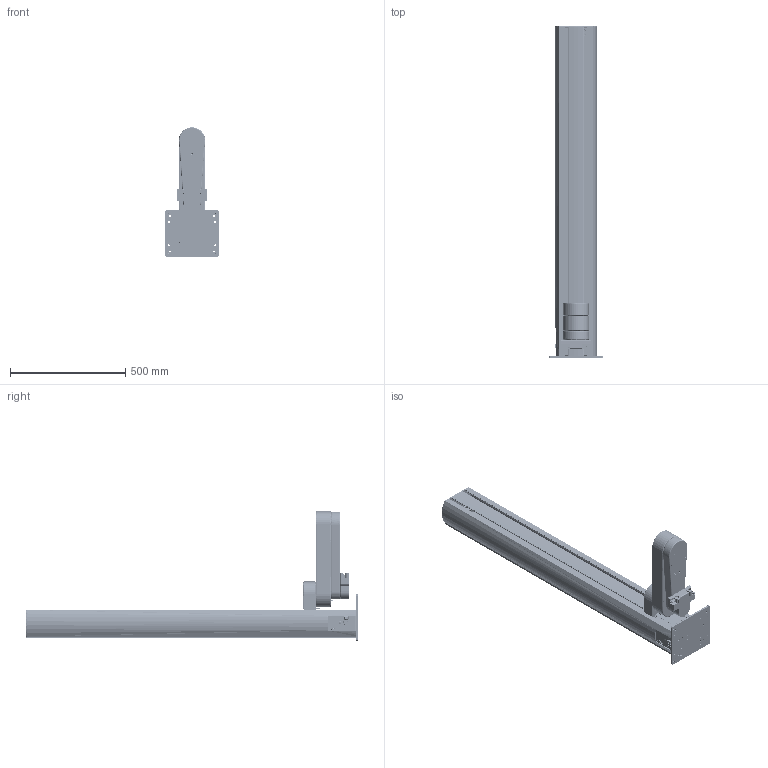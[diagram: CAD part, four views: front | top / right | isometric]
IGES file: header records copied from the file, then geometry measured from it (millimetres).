
Start section: SolidWorks IGES file using analytic representation for surfaces
Bounding box: 235.1 x 1438.95 x 561 mm (x, y, z)
Surface area: 3251085.9 mm2 (no closed solid volume)
Topology: 0 solids, 0 shells, 11580 faces, 154252 edges, 154045 vertices
Faces by surface type: revolution 6139, bspline 5441
